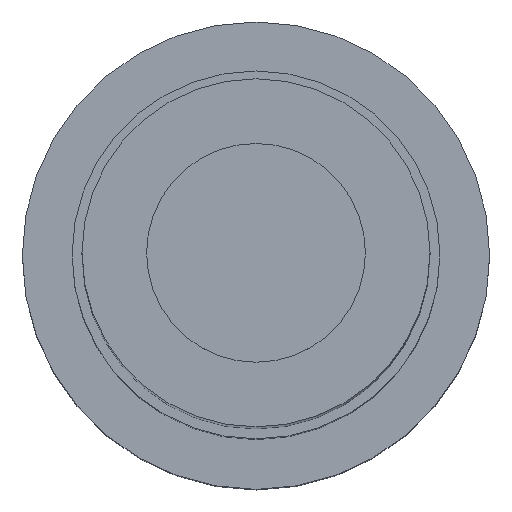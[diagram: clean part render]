
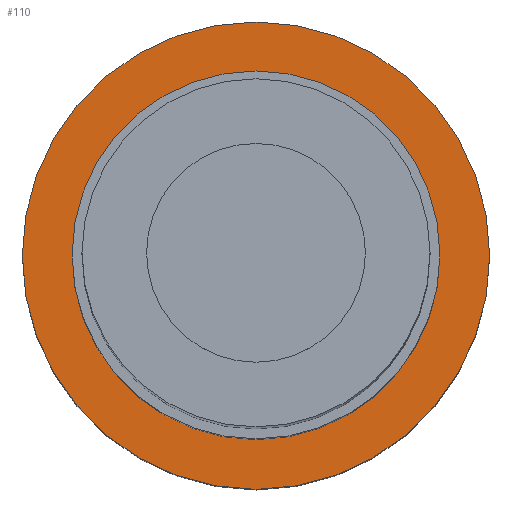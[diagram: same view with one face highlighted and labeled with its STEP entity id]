
A CAD part, top view. The second image highlights one B-rep face of the part: STEP entity #110.
In plain terms, the highlighted planar face has unit normal (0, 0, 1) as drawn and (-1, 0, 0) by its records, which use the part's own axes.
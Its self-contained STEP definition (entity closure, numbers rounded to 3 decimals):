
#65 = EDGE_CURVE ( 'NONE', #86, #85, #302, .T. ) ;
#75 = VERTEX_POINT ( 'NONE', #344 ) ;
#77 = VERTEX_POINT ( 'NONE', #343 ) ;
#78 = EDGE_CURVE ( 'NONE', #77, #75, #342, .T. ) ;
#84 = EDGE_CURVE ( 'NONE', #85, #86, #318, .T. ) ;
#85 = VERTEX_POINT ( 'NONE', #436 ) ;
#86 = VERTEX_POINT ( 'NONE', #437 ) ;
#94 = ORIENTED_EDGE ( 'NONE', *, *, #84, .F. ) ;
#95 = ORIENTED_EDGE ( 'NONE', *, *, #65, .F. ) ;
#110 = ADVANCED_FACE ( 'NONE', ( #448, #406 ), #405, .F. ) ;
#111 = EDGE_LOOP ( 'NONE', ( #112, #113 ) ) ;
#112 = ORIENTED_EDGE ( 'NONE', *, *, #78, .T. ) ;
#113 = ORIENTED_EDGE ( 'NONE', *, *, #114, .T. ) ;
#114 = EDGE_CURVE ( 'NONE', #75, #77, #400, .T. ) ;
#115 = EDGE_LOOP ( 'NONE', ( #94, #95 ) ) ;
#299 = DIRECTION ( 'NONE',  ( 0., 0., -1. ) ) ;
#300 = DIRECTION ( 'NONE',  ( 1., 0., 0. ) ) ;
#301 = AXIS2_PLACEMENT_3D ( 'NONE', #307, #300, #299 ) ;
#302 = CIRCLE ( 'NONE', #301, 2.35 ) ;
#307 = CARTESIAN_POINT ( 'NONE',  ( -3.6, 0., 0. ) ) ;
#315 = DIRECTION ( 'NONE',  ( 0., 0., -1. ) ) ;
#316 = DIRECTION ( 'NONE',  ( 1., 0., 0. ) ) ;
#317 = AXIS2_PLACEMENT_3D ( 'NONE', #323, #316, #315 ) ;
#318 = CIRCLE ( 'NONE', #317, 2.35 ) ;
#323 = CARTESIAN_POINT ( 'NONE',  ( -3.6, 0., 0. ) ) ;
#338 = DIRECTION ( 'NONE',  ( 0., 0., -1. ) ) ;
#339 = DIRECTION ( 'NONE',  ( 1., 0., 0. ) ) ;
#340 = CARTESIAN_POINT ( 'NONE',  ( -3.6, 0., 0. ) ) ;
#341 = AXIS2_PLACEMENT_3D ( 'NONE', #340, #339, #338 ) ;
#342 = CIRCLE ( 'NONE', #341, 1.85 ) ;
#343 = CARTESIAN_POINT ( 'NONE',  ( -3.6, 0., -1.85 ) ) ;
#344 = CARTESIAN_POINT ( 'NONE',  ( -3.6, 0., 1.85 ) ) ;
#396 = DIRECTION ( 'NONE',  ( 0., 0., -1. ) ) ;
#397 = DIRECTION ( 'NONE',  ( 1., 0., 0. ) ) ;
#398 = CARTESIAN_POINT ( 'NONE',  ( -3.6, 0., 0. ) ) ;
#399 = AXIS2_PLACEMENT_3D ( 'NONE', #398, #397, #396 ) ;
#400 = CIRCLE ( 'NONE', #399, 1.85 ) ;
#401 = DIRECTION ( 'NONE',  ( 0., 0., -1. ) ) ;
#402 = DIRECTION ( 'NONE',  ( 1., 0., 0. ) ) ;
#403 = CARTESIAN_POINT ( 'NONE',  ( -3.6, 0., 0. ) ) ;
#404 = AXIS2_PLACEMENT_3D ( 'NONE', #403, #402, #401 ) ;
#405 = PLANE ( 'NONE',  #404 ) ;
#406 = FACE_OUTER_BOUND ( 'NONE', #115, .T. ) ;
#436 = CARTESIAN_POINT ( 'NONE',  ( -3.6, 0., -2.35 ) ) ;
#437 = CARTESIAN_POINT ( 'NONE',  ( -3.6, 0., 2.35 ) ) ;
#448 = FACE_BOUND ( 'NONE', #111, .T. ) ;
